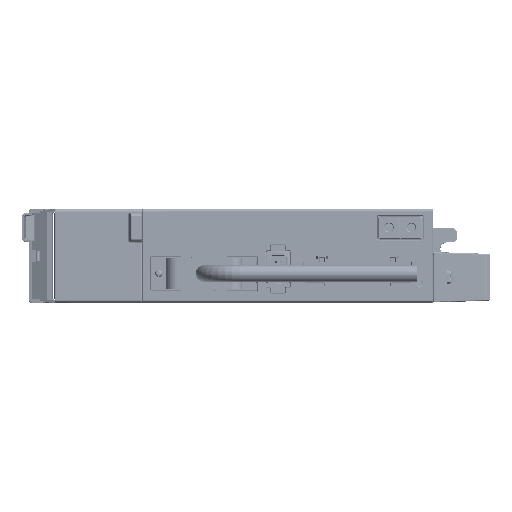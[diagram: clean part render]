
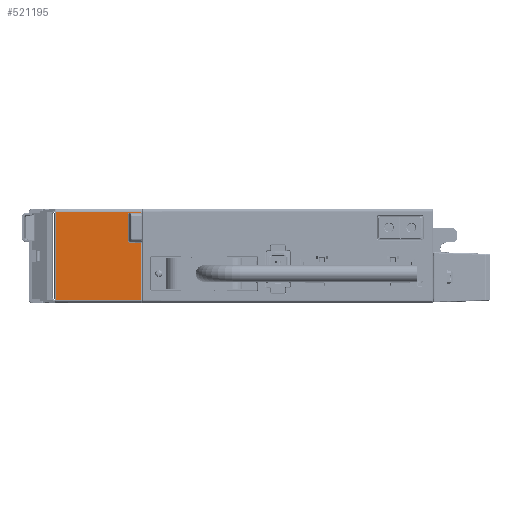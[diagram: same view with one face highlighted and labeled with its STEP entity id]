
A CAD part, front view. The second image highlights one B-rep face of the part: STEP entity #521195.
In plain terms, the highlighted planar face has unit normal (0, -1, 0) as drawn and (0, 0, 1) by its records, which use the part's own axes.
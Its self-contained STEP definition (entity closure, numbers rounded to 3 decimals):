
#513088=DIRECTION('',(-1.,0.,0.));
#513089=VECTOR('',#513088,37.586);
#513090=CARTESIAN_POINT('',(18.793,-81.261,
136.797));
#513091=LINE('',#513090,#513089);
#513314=DIRECTION('',(0.,1.,0.));
#513315=VECTOR('',#513314,36.104);
#513316=CARTESIAN_POINT('',(-18.793,-81.261,
136.797));
#513317=LINE('',#513316,#513315);
#513335=DIRECTION('',(0.,-1.,0.));
#513336=VECTOR('',#513335,36.104);
#513337=CARTESIAN_POINT('',(18.793,-45.157,
136.797));
#513338=LINE('',#513337,#513336);
#516772=DIRECTION('',(1.,0.,0.));
#516773=VECTOR('',#516772,0.451);
#516774=CARTESIAN_POINT('',(-18.793,-45.157,
136.797));
#516775=LINE('',#516774,#516773);
#517002=DIRECTION('',(1.,0.,0.));
#517003=VECTOR('',#517002,24.451);
#517004=CARTESIAN_POINT('',(-5.658,-45.157,
136.797));
#517005=LINE('',#517004,#517003);
#517060=DIRECTION('',(0.,1.,0.));
#517061=VECTOR('',#517060,4.937);
#517062=CARTESIAN_POINT('',(-5.658,-50.094,
136.797));
#517063=LINE('',#517062,#517061);
#517074=CARTESIAN_POINT('',(-6.15,-50.617,
136.797));
#517075=CARTESIAN_POINT('',(-6.098,-50.617,
136.797));
#517076=CARTESIAN_POINT('',(-5.999,-50.601,
136.797));
#517077=CARTESIAN_POINT('',(-5.86,-50.528,
136.797));
#517078=CARTESIAN_POINT('',(-5.75,-50.414,
136.797));
#517079=CARTESIAN_POINT('',(-5.676,-50.266,
136.797));
#517080=CARTESIAN_POINT('',(-5.659,-50.154,
136.797));
#517081=CARTESIAN_POINT('',(-5.658,-50.094,
136.797));
#517109=DIRECTION('',(1.,0.,0.));
#517110=VECTOR('',#517109,11.701);
#517111=CARTESIAN_POINT('',(-17.85,-50.617,
136.797));
#517112=LINE('',#517111,#517110);
#517124=CARTESIAN_POINT('',(-18.342,-50.094,
136.797));
#517125=CARTESIAN_POINT('',(-18.341,-50.154,
136.797));
#517126=CARTESIAN_POINT('',(-18.325,-50.264,
136.797));
#517127=CARTESIAN_POINT('',(-18.251,-50.414,
136.797));
#517128=CARTESIAN_POINT('',(-18.139,-50.529,
136.797));
#517129=CARTESIAN_POINT('',(-17.999,-50.601,
136.797));
#517130=CARTESIAN_POINT('',(-17.901,-50.617,
136.797));
#517131=CARTESIAN_POINT('',(-17.85,-50.617,
136.797));
#517477=DIRECTION('',(0.,-1.,0.));
#517478=VECTOR('',#517477,4.937);
#517479=CARTESIAN_POINT('',(-18.342,-45.157,
136.797));
#517480=LINE('',#517479,#517478);
#519630=CARTESIAN_POINT('',(-18.793,-81.261,
136.797));
#519631=CARTESIAN_POINT('',(-18.793,-45.157,
136.797));
#519632=VERTEX_POINT('',#519630);
#519633=VERTEX_POINT('',#519631);
#519634=CARTESIAN_POINT('',(18.793,-45.157,
136.797));
#519635=CARTESIAN_POINT('',(18.793,-81.261,
136.797));
#519636=VERTEX_POINT('',#519634);
#519637=VERTEX_POINT('',#519635);
#519638=CARTESIAN_POINT('',(-5.658,-45.157,
136.797));
#519639=VERTEX_POINT('',#519638);
#519640=CARTESIAN_POINT('',(-5.658,-50.094,
136.797));
#519641=VERTEX_POINT('',#519640);
#519642=VERTEX_POINT('',#517074);
#519643=CARTESIAN_POINT('',(-17.85,-50.617,
136.797));
#519644=VERTEX_POINT('',#519643);
#519645=VERTEX_POINT('',#517124);
#519646=CARTESIAN_POINT('',(-18.342,-45.157,
136.797));
#519647=VERTEX_POINT('',#519646);
#521170=CARTESIAN_POINT('',(0.,-63.325,136.797));
#521171=DIRECTION('',(0.,0.,-1.));
#521172=DIRECTION('',(1.,0.,0.));
#521173=AXIS2_PLACEMENT_3D('',#521170,#521171,#521172);
#521174=PLANE('',#521173);
#521176=ORIENTED_EDGE('',*,*,#521175,.T.);
#521177=ORIENTED_EDGE('',*,*,#520933,.T.);
#521178=ORIENTED_EDGE('',*,*,#521161,.T.);
#521180=ORIENTED_EDGE('',*,*,#521179,.T.);
#521182=ORIENTED_EDGE('',*,*,#521181,.T.);
#521184=ORIENTED_EDGE('',*,*,#521183,.T.);
#521186=ORIENTED_EDGE('',*,*,#521185,.T.);
#521188=ORIENTED_EDGE('',*,*,#521187,.T.);
#521190=ORIENTED_EDGE('',*,*,#521189,.T.);
#521192=ORIENTED_EDGE('',*,*,#521191,.T.);
#521193=EDGE_LOOP('',(#521176,#521177,#521178,#521180,#521182,#521184,#521186,
#521188,#521190,#521192));
#521194=FACE_OUTER_BOUND('',#521193,.F.);
#521195=ADVANCED_FACE('',(#521194),#521174,.F.);
#517082=B_SPLINE_CURVE_WITH_KNOTS('',3,(#517074,#517075,#517076,#517077,#517078,
#517079,#517080,#517081),.UNSPECIFIED.,.F.,.F.,(4,1,1,1,1,4),(0.,0.2,0.4,
0.6,0.8,1.),.UNSPECIFIED.);
#517132=B_SPLINE_CURVE_WITH_KNOTS('',3,(#517124,#517125,#517126,#517127,#517128,
#517129,#517130,#517131),.UNSPECIFIED.,.F.,.F.,(4,1,1,1,1,4),(0.,0.2,0.4,
0.6,0.8,1.),.UNSPECIFIED.);
#520933=EDGE_CURVE('',#519637,#519632,#513091,.T.);
#521161=EDGE_CURVE('',#519632,#519633,#513317,.T.);
#521175=EDGE_CURVE('',#519636,#519637,#513338,.T.);
#521179=EDGE_CURVE('',#519633,#519647,#516775,.T.);
#521181=EDGE_CURVE('',#519647,#519645,#517480,.T.);
#521183=EDGE_CURVE('',#519645,#519644,#517132,.T.);
#521185=EDGE_CURVE('',#519644,#519642,#517112,.T.);
#521187=EDGE_CURVE('',#519642,#519641,#517082,.T.);
#521189=EDGE_CURVE('',#519641,#519639,#517063,.T.);
#521191=EDGE_CURVE('',#519639,#519636,#517005,.T.);
